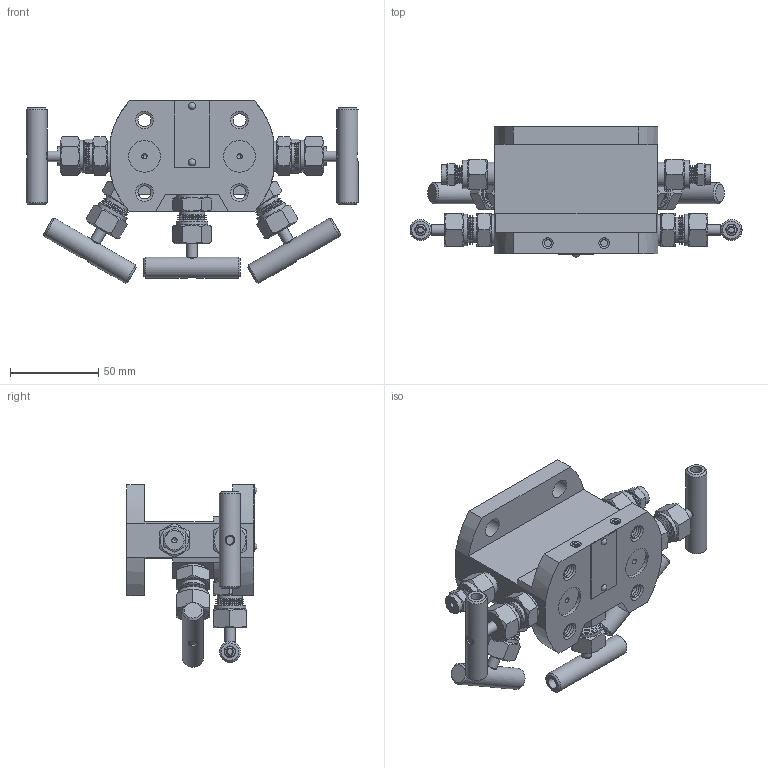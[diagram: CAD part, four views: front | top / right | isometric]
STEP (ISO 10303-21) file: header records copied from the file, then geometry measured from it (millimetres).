
FILE_DESCRIPTION(('STEP AP214'), '1');
FILE_NAME('A52-檐', '2017-04-26T10:49:19', ('UNSPECIFIED'), ('UNSPECIFIED'), 'ASCON STEP Converter 1.3', 'ASCON Math Kernel', '');
FILE_SCHEMA(('AUTOMOTIVE_DESIGN { 1 0 10303 214 3 1 1}'));
Length unit declared in the file: millimetre
Bounding box: 188.5 x 73.95 x 103.55 mm (x, y, z)
Volume: 308799.6 mm3; surface area: 107773.4 mm2
Topology: 81 solids, 83 shells, 1597 faces, 4198 edges, 2729 vertices
Faces by surface type: cone 1012, plane 359, cylinder 219, torus 5, sphere 2
Full cylindrical faces by diameter (mm): 2 x4, 3 x14, 4 x4, 5 x5, 5.5 x5, 6 x10, 6.5 x15, 7 x7, 8 x5, 8.268 x2, 10 x2, 11 x6, 11.5 x10, 12 x15, 14 x2, 14.268 x5, 15 x43, 16 x7, 17.292 x5, 18 x9, 24 x2
Entity records: 121340 total; most frequent: CARTESIAN_POINT 73523, DIRECTION 6793, ORIENTED_EDGE 6114, AXIS2_PLACEMENT_3D 3207, EDGE_CURVE 3057, EDGE_LOOP 2856, VERTEX_POINT 2702, FACE_BOUND 1978
